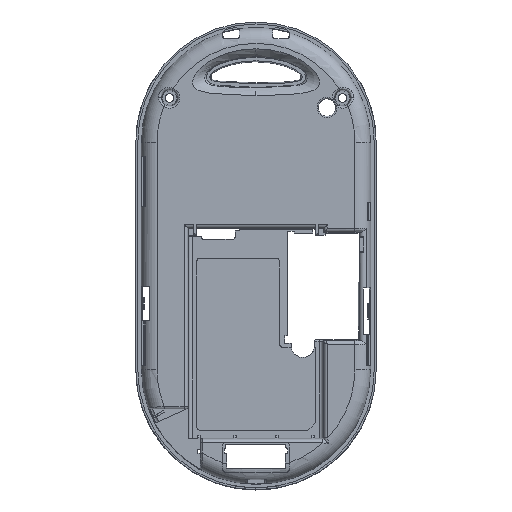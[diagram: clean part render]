
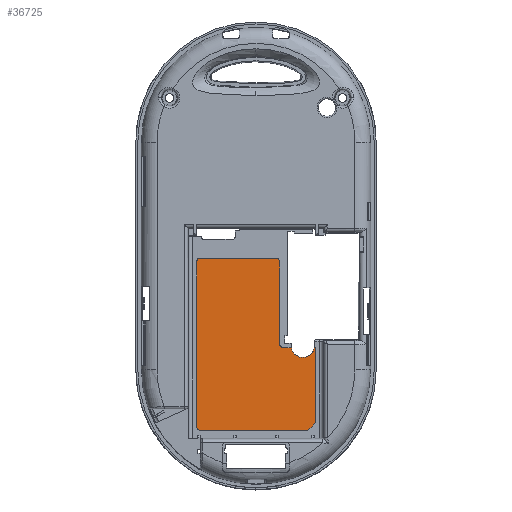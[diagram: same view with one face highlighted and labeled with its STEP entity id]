
A CAD part, front view. The second image highlights one B-rep face of the part: STEP entity #36725.
In plain terms, the highlighted planar face has unit normal (0, -1, 0).
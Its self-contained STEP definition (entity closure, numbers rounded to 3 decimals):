
#12320=DIRECTION('',(0.,0.,1.));
#12321=VECTOR('',#12320,21.091);
#12322=CARTESIAN_POINT('',(6.1,-2.65,-66.374));
#12323=LINE('',#12322,#12321);
#12324=DIRECTION('',(-1.,0.,0.));
#12325=VECTOR('',#12324,2.015);
#12326=CARTESIAN_POINT('',(9.115,-2.65,-67.374));
#12327=LINE('',#12326,#12325);
#12328=CARTESIAN_POINT('',(12.079,-2.65,-66.915));
#12329=DIRECTION('',(0.,1.,0.));
#12330=DIRECTION('',(0.988,0.,-0.153));
#12331=AXIS2_PLACEMENT_3D('',#12328,#12329,#12330);
#12333=DIRECTION('',(-1.,0.,0.));
#12334=VECTOR('',#12333,0.29);
#12335=CARTESIAN_POINT('',(15.334,-2.65,-67.374));
#12336=LINE('',#12335,#12334);
#12337=DIRECTION('',(0.,0.,1.));
#12338=VECTOR('',#12337,19.376);
#12339=CARTESIAN_POINT('',(15.334,-2.65,-86.75));
#12340=LINE('',#12339,#12338);
#12341=DIRECTION('',(0.707,0.,0.707));
#12342=VECTOR('',#12341,2.828);
#12343=CARTESIAN_POINT('',(13.334,-2.65,-88.75));
#12344=LINE('',#12343,#12342);
#12345=DIRECTION('',(1.,0.,0.));
#12346=VECTOR('',#12345,27.667);
#12347=CARTESIAN_POINT('',(-14.334,-2.65,-88.75));
#12348=LINE('',#12347,#12346);
#12349=DIRECTION('',(0.,0.,-1.));
#12350=VECTOR('',#12349,42.467);
#12351=CARTESIAN_POINT('',(-15.334,-2.65,-45.283));
#12352=LINE('',#12351,#12350);
#12353=DIRECTION('',(-1.,0.,0.));
#12354=VECTOR('',#12353,19.434);
#12355=CARTESIAN_POINT('',(5.1,-2.65,-44.283));
#12356=LINE('',#12355,#12354);
#12361=CARTESIAN_POINT('',(7.1,-2.65,-66.374));
#12362=DIRECTION('',(0.,1.,0.));
#12363=DIRECTION('',(0.,0.,-1.));
#12364=AXIS2_PLACEMENT_3D('',#12361,#12362,#12363);
#12408=CARTESIAN_POINT('',(-14.334,-2.65,-87.75));
#12409=DIRECTION('',(0.,-1.,0.));
#12410=DIRECTION('',(-1.,0.,0.));
#12411=AXIS2_PLACEMENT_3D('',#12408,#12409,#12410);
#12426=CARTESIAN_POINT('',(-14.334,-2.65,-45.283));
#12427=DIRECTION('',(0.,-1.,0.));
#12428=DIRECTION('',(0.,0.,1.));
#12429=AXIS2_PLACEMENT_3D('',#12426,#12427,#12428);
#12444=CARTESIAN_POINT('',(5.1,-2.65,-45.283));
#12445=DIRECTION('',(0.,-1.,0.));
#12446=DIRECTION('',(1.,0.,0.));
#12447=AXIS2_PLACEMENT_3D('',#12444,#12445,#12446);
#20660=CARTESIAN_POINT('',(15.334,-2.65,-86.75));
#20661=CARTESIAN_POINT('',(15.334,-2.65,-67.374));
#20662=VERTEX_POINT('',#20660);
#20663=VERTEX_POINT('',#20661);
#20670=CARTESIAN_POINT('',(15.044,-2.65,-67.374));
#20671=CARTESIAN_POINT('',(9.115,-2.65,-67.374));
#20672=VERTEX_POINT('',#20670);
#20673=VERTEX_POINT('',#20671);
#20676=CARTESIAN_POINT('',(13.334,-2.65,-88.75));
#20677=VERTEX_POINT('',#20676);
#20681=CARTESIAN_POINT('',(-15.334,-2.65,-45.283));
#20683=VERTEX_POINT('',#20681);
#20685=CARTESIAN_POINT('',(-14.334,-2.65,-44.283));
#20687=VERTEX_POINT('',#20685);
#20689=CARTESIAN_POINT('',(5.1,-2.65,-44.283));
#20691=VERTEX_POINT('',#20689);
#20693=CARTESIAN_POINT('',(6.1,-2.65,-45.283));
#20695=VERTEX_POINT('',#20693);
#20697=CARTESIAN_POINT('',(-14.334,-2.65,-88.75));
#20699=VERTEX_POINT('',#20697);
#20701=CARTESIAN_POINT('',(-15.334,-2.65,-87.75));
#20703=VERTEX_POINT('',#20701);
#20704=CARTESIAN_POINT('',(7.1,-2.65,-67.374));
#20706=VERTEX_POINT('',#20704);
#20708=CARTESIAN_POINT('',(6.1,-2.65,-66.374));
#20710=VERTEX_POINT('',#20708);
#36693=CARTESIAN_POINT('',(0.,-2.65,-85.));
#36694=DIRECTION('',(0.,-1.,0.));
#36695=DIRECTION('',(1.,0.,0.));
#36696=AXIS2_PLACEMENT_3D('',#36693,#36694,#36695);
#36697=PLANE('',#36696);
#36699=ORIENTED_EDGE('',*,*,#36698,.F.);
#36701=ORIENTED_EDGE('',*,*,#36700,.F.);
#36703=ORIENTED_EDGE('',*,*,#36702,.F.);
#36704=ORIENTED_EDGE('',*,*,#36678,.F.);
#36706=ORIENTED_EDGE('',*,*,#36705,.F.);
#36708=ORIENTED_EDGE('',*,*,#36707,.F.);
#36710=ORIENTED_EDGE('',*,*,#36709,.F.);
#36712=ORIENTED_EDGE('',*,*,#36711,.F.);
#36714=ORIENTED_EDGE('',*,*,#36713,.F.);
#36716=ORIENTED_EDGE('',*,*,#36715,.F.);
#36718=ORIENTED_EDGE('',*,*,#36717,.F.);
#36720=ORIENTED_EDGE('',*,*,#36719,.F.);
#36722=ORIENTED_EDGE('',*,*,#36721,.F.);
#36723=EDGE_LOOP('',(#36699,#36701,#36703,#36704,#36706,#36708,#36710,#36712,
#36714,#36716,#36718,#36720,#36722));
#36724=FACE_OUTER_BOUND('',#36723,.F.);
#36725=ADVANCED_FACE('',(#36724),#36697,.T.);
#12332=CIRCLE('',#12331,3.);
#12365=CIRCLE('',#12364,1.);
#12412=CIRCLE('',#12411,1.);
#12430=CIRCLE('',#12429,1.);
#12448=CIRCLE('',#12447,1.);
#36678=EDGE_CURVE('',#20672,#20673,#12332,.T.);
#36698=EDGE_CURVE('',#20710,#20695,#12323,.T.);
#36700=EDGE_CURVE('',#20706,#20710,#12365,.T.);
#36702=EDGE_CURVE('',#20673,#20706,#12327,.T.);
#36705=EDGE_CURVE('',#20663,#20672,#12336,.T.);
#36707=EDGE_CURVE('',#20662,#20663,#12340,.T.);
#36709=EDGE_CURVE('',#20677,#20662,#12344,.T.);
#36711=EDGE_CURVE('',#20699,#20677,#12348,.T.);
#36713=EDGE_CURVE('',#20703,#20699,#12412,.T.);
#36715=EDGE_CURVE('',#20683,#20703,#12352,.T.);
#36717=EDGE_CURVE('',#20687,#20683,#12430,.T.);
#36719=EDGE_CURVE('',#20691,#20687,#12356,.T.);
#36721=EDGE_CURVE('',#20695,#20691,#12448,.T.);
